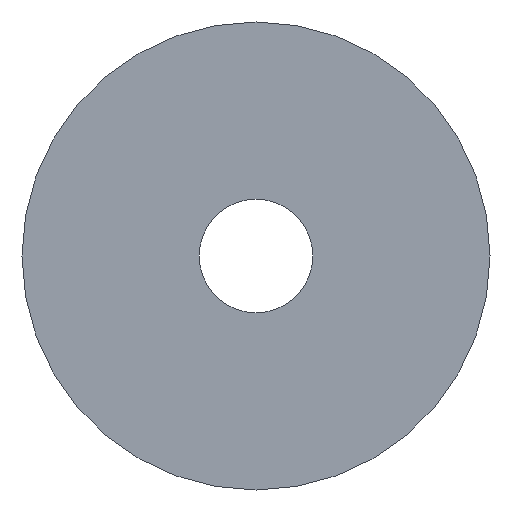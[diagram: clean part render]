
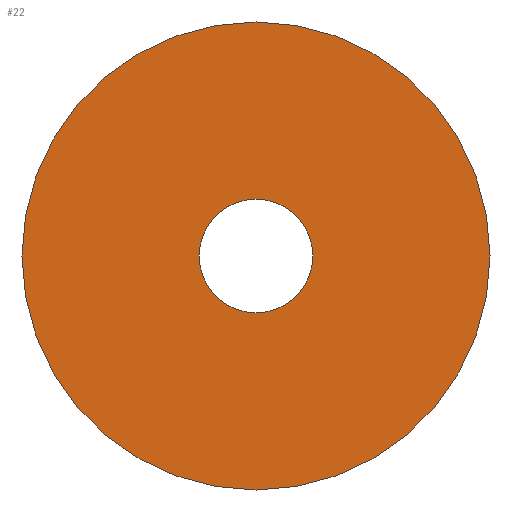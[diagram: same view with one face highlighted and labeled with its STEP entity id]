
A CAD part, front view. The second image highlights one B-rep face of the part: STEP entity #22.
In plain terms, the highlighted planar face has unit normal (0, -1, 0).
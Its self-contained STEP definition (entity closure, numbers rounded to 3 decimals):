
#22 = ADVANCED_FACE ( 'NONE', ( #252, #242 ), #253, .F. ) ;
#23 = EDGE_CURVE ( 'NONE', #124, #923, #291, .T. ) ;
#24 = ORIENTED_EDGE ( 'NONE', *, *, #120, .F. ) ;
#25 = ORIENTED_EDGE ( 'NONE', *, *, #214, .T. ) ;
#120 = EDGE_CURVE ( 'NONE', #923, #124, #399, .T. ) ;
#124 = VERTEX_POINT ( 'NONE', #384 ) ;
#213 = EDGE_LOOP ( 'NONE', ( #216, #25 ) ) ;
#214 = EDGE_CURVE ( 'NONE', #893, #904, #510, .T. ) ;
#216 = ORIENTED_EDGE ( 'NONE', *, *, #920, .T. ) ;
#232 = DIRECTION ( 'NONE',  ( 0., 1., 0. ) ) ;
#233 = CARTESIAN_POINT ( 'NONE',  ( 0., 0., 0. ) ) ;
#241 = AXIS2_PLACEMENT_3D ( 'NONE', #233, #232, #255 ) ;
#242 = FACE_BOUND ( 'NONE', #213, .T. ) ;
#252 = FACE_OUTER_BOUND ( 'NONE', #954, .T. ) ;
#253 = PLANE ( 'NONE',  #241 ) ;
#255 = DIRECTION ( 'NONE',  ( 0., 0., 1. ) ) ;
#284 = DIRECTION ( 'NONE',  ( 0., 0., 1. ) ) ;
#285 = DIRECTION ( 'NONE',  ( 0., 1., 0. ) ) ;
#286 = CARTESIAN_POINT ( 'NONE',  ( 0., 0., 0. ) ) ;
#290 = AXIS2_PLACEMENT_3D ( 'NONE', #286, #285, #284 ) ;
#291 = CIRCLE ( 'NONE', #290, 35. ) ;
#384 = CARTESIAN_POINT ( 'NONE',  ( 0., 0., -35. ) ) ;
#385 = DIRECTION ( 'NONE',  ( 0., 0., 1. ) ) ;
#386 = DIRECTION ( 'NONE',  ( 0., 1., 0. ) ) ;
#387 = CARTESIAN_POINT ( 'NONE',  ( 0., 0., 0. ) ) ;
#388 = AXIS2_PLACEMENT_3D ( 'NONE', #387, #386, #385 ) ;
#399 = CIRCLE ( 'NONE', #388, 35. ) ;
#509 = AXIS2_PLACEMENT_3D ( 'NONE', #563, #551, #550 ) ;
#510 = CIRCLE ( 'NONE', #509, 8.5 ) ;
#550 = DIRECTION ( 'NONE',  ( 0., 0., 1. ) ) ;
#551 = DIRECTION ( 'NONE',  ( 0., 1., 0. ) ) ;
#563 = CARTESIAN_POINT ( 'NONE',  ( 0., 0., 0. ) ) ;
#606 = CARTESIAN_POINT ( 'NONE',  ( 0., 0., -8.5 ) ) ;
#639 = CIRCLE ( 'NONE', #675, 8.5 ) ;
#657 = CARTESIAN_POINT ( 'NONE',  ( 0., 0., 8.5 ) ) ;
#665 = DIRECTION ( 'NONE',  ( 0., 0., 1. ) ) ;
#666 = DIRECTION ( 'NONE',  ( 0., 1., 0. ) ) ;
#667 = CARTESIAN_POINT ( 'NONE',  ( 0., 0., 0. ) ) ;
#675 = AXIS2_PLACEMENT_3D ( 'NONE', #667, #666, #665 ) ;
#691 = CARTESIAN_POINT ( 'NONE',  ( 0., 0., 35. ) ) ;
#724 = ORIENTED_EDGE ( 'NONE', *, *, #23, .F. ) ;
#893 = VERTEX_POINT ( 'NONE', #657 ) ;
#904 = VERTEX_POINT ( 'NONE', #606 ) ;
#920 = EDGE_CURVE ( 'NONE', #904, #893, #639, .T. ) ;
#923 = VERTEX_POINT ( 'NONE', #691 ) ;
#954 = EDGE_LOOP ( 'NONE', ( #724, #24 ) ) ;
